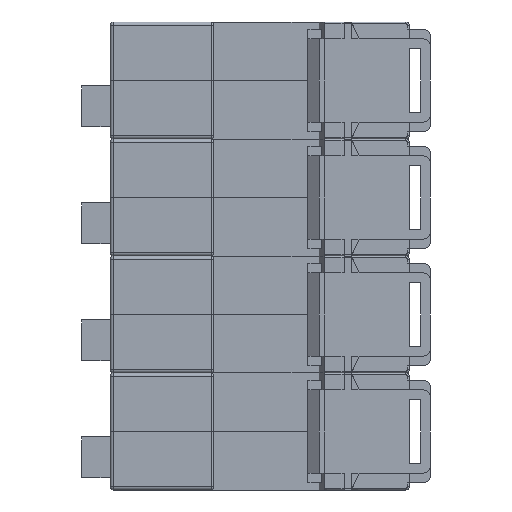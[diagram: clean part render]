
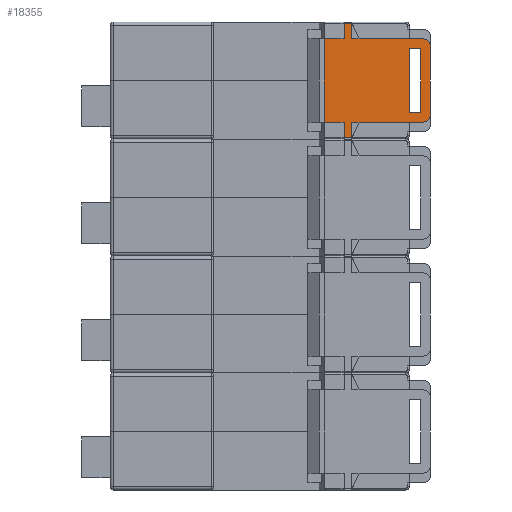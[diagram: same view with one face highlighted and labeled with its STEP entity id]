
A CAD part, front view. The second image highlights one B-rep face of the part: STEP entity #18355.
In plain terms, the highlighted planar face has unit normal (0, -1, 0).
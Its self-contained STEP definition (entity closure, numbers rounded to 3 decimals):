
#153=FACE_BOUND('',#6775,.T.);
#846=LINE('',#27334,#2952);
#850=LINE('',#27343,#2956);
#854=LINE('',#27350,#2960);
#860=LINE('',#27367,#2966);
#1074=LINE('',#27840,#3180);
#1080=LINE('',#27853,#3186);
#1086=LINE('',#27866,#3192);
#1090=LINE('',#27873,#3196);
#1093=LINE('',#27878,#3199);
#1106=LINE('',#27908,#3212);
#1109=LINE('',#27915,#3215);
#1115=LINE('',#27928,#3221);
#1117=LINE('',#27932,#3223);
#1125=LINE('',#27948,#3231);
#1131=LINE('',#27962,#3237);
#1135=LINE('',#27968,#3241);
#1136=LINE('',#27970,#3242);
#1137=LINE('',#27972,#3243);
#1138=LINE('',#27973,#3244);
#1139=LINE('',#27974,#3245);
#2952=VECTOR('',#21838,10.);
#2956=VECTOR('',#21844,10.);
#2960=VECTOR('',#21850,10.);
#2966=VECTOR('',#21866,10.);
#3180=VECTOR('',#22306,10.);
#3186=VECTOR('',#22320,10.);
#3192=VECTOR('',#22334,10.);
#3196=VECTOR('',#22340,10.);
#3199=VECTOR('',#22345,10.);
#3212=VECTOR('',#22374,10.);
#3215=VECTOR('',#22385,10.);
#3221=VECTOR('',#22397,10.);
#3223=VECTOR('',#22401,10.);
#3231=VECTOR('',#22417,10.);
#3237=VECTOR('',#22427,10.);
#3241=VECTOR('',#22435,10.);
#3242=VECTOR('',#22438,10.);
#3243=VECTOR('',#22439,10.);
#3244=VECTOR('',#22440,10.);
#3245=VECTOR('',#22441,10.);
#4895=PLANE('',#19753);
#5732=FACE_OUTER_BOUND('',#6774,.T.);
#6774=EDGE_LOOP('',(#13931,#13932,#13933,#13934,#13935,#13936,#13937,#13938,
#13939,#13940,#13941,#13942,#13943,#13944,#13945,#13946,#13947,#13948));
#6775=EDGE_LOOP('',(#13949,#13950,#13951,#13952));
#7755=CIRCLE('',#19721,2.);
#7756=CIRCLE('',#19724,2.);
#8445=VERTEX_POINT('',#27332);
#8446=VERTEX_POINT('',#27333);
#8449=VERTEX_POINT('',#27341);
#8450=VERTEX_POINT('',#27342);
#8452=VERTEX_POINT('',#27349);
#8457=VERTEX_POINT('',#27365);
#8458=VERTEX_POINT('',#27366);
#8603=VERTEX_POINT('',#27837);
#8604=VERTEX_POINT('',#27839);
#8606=VERTEX_POINT('',#27848);
#8607=VERTEX_POINT('',#27852);
#8610=VERTEX_POINT('',#27865);
#8612=VERTEX_POINT('',#27871);
#8613=VERTEX_POINT('',#27876);
#8621=VERTEX_POINT('',#27905);
#8622=VERTEX_POINT('',#27907);
#8626=VERTEX_POINT('',#27927);
#8627=VERTEX_POINT('',#27931);
#8631=VERTEX_POINT('',#27945);
#8636=VERTEX_POINT('',#27960);
#8637=VERTEX_POINT('',#27961);
#8638=VERTEX_POINT('',#27971);
#10320=EDGE_CURVE('',#8445,#8446,#846,.T.);
#10324=EDGE_CURVE('',#8449,#8450,#850,.T.);
#10328=EDGE_CURVE('',#8449,#8452,#854,.T.);
#10336=EDGE_CURVE('',#8457,#8458,#860,.T.);
#10576=EDGE_CURVE('',#8603,#8604,#1074,.T.);
#10581=EDGE_CURVE('',#8606,#8445,#7755,.T.);
#10583=EDGE_CURVE('',#8607,#8606,#1080,.T.);
#10585=EDGE_CURVE('',#8458,#8607,#7756,.T.);
#10590=EDGE_CURVE('',#8610,#8452,#1086,.T.);
#10594=EDGE_CURVE('',#8612,#8457,#1090,.T.);
#10597=EDGE_CURVE('',#8613,#8603,#1093,.T.);
#10611=EDGE_CURVE('',#8621,#8622,#1106,.T.);
#10615=EDGE_CURVE('',#8604,#8621,#1109,.T.);
#10621=EDGE_CURVE('',#8626,#8612,#1115,.T.);
#10623=EDGE_CURVE('',#8627,#8626,#1117,.T.);
#10632=EDGE_CURVE('',#8446,#8631,#1125,.T.);
#10638=EDGE_CURVE('',#8636,#8637,#1131,.T.);
#10642=EDGE_CURVE('',#8631,#8636,#1135,.T.);
#10643=EDGE_CURVE('',#8622,#8627,#1136,.T.);
#10644=EDGE_CURVE('',#8613,#8638,#1137,.T.);
#10645=EDGE_CURVE('',#8637,#8638,#1138,.T.);
#10646=EDGE_CURVE('',#8450,#8610,#1139,.T.);
#13931=ORIENTED_EDGE('',*,*,#10581,.F.);
#13932=ORIENTED_EDGE('',*,*,#10583,.F.);
#13933=ORIENTED_EDGE('',*,*,#10585,.F.);
#13934=ORIENTED_EDGE('',*,*,#10336,.F.);
#13935=ORIENTED_EDGE('',*,*,#10594,.F.);
#13936=ORIENTED_EDGE('',*,*,#10621,.F.);
#13937=ORIENTED_EDGE('',*,*,#10623,.F.);
#13938=ORIENTED_EDGE('',*,*,#10643,.F.);
#13939=ORIENTED_EDGE('',*,*,#10611,.F.);
#13940=ORIENTED_EDGE('',*,*,#10615,.F.);
#13941=ORIENTED_EDGE('',*,*,#10576,.F.);
#13942=ORIENTED_EDGE('',*,*,#10597,.F.);
#13943=ORIENTED_EDGE('',*,*,#10644,.T.);
#13944=ORIENTED_EDGE('',*,*,#10645,.F.);
#13945=ORIENTED_EDGE('',*,*,#10638,.F.);
#13946=ORIENTED_EDGE('',*,*,#10642,.F.);
#13947=ORIENTED_EDGE('',*,*,#10632,.F.);
#13948=ORIENTED_EDGE('',*,*,#10320,.F.);
#13949=ORIENTED_EDGE('',*,*,#10324,.T.);
#13950=ORIENTED_EDGE('',*,*,#10646,.T.);
#13951=ORIENTED_EDGE('',*,*,#10590,.T.);
#13952=ORIENTED_EDGE('',*,*,#10328,.F.);
#18355=ADVANCED_FACE('',(#5732,#153),#4895,.T.);
#19721=AXIS2_PLACEMENT_3D('',#27849,#22315,#22316);
#19724=AXIS2_PLACEMENT_3D('',#27856,#22324,#22325);
#19753=AXIS2_PLACEMENT_3D('',#27969,#22436,#22437);
#21838=DIRECTION('',(-1.,0.,0.));
#21844=DIRECTION('',(-1.,0.,0.));
#21850=DIRECTION('',(0.,0.,1.));
#21866=DIRECTION('',(1.,0.,0.));
#22306=DIRECTION('',(0.,0.,1.));
#22315=DIRECTION('center_axis',(0.,1.,0.));
#22316=DIRECTION('ref_axis',(0.707,0.,-0.707));
#22320=DIRECTION('',(0.,0.,-1.));
#22324=DIRECTION('center_axis',(0.,1.,0.));
#22325=DIRECTION('ref_axis',(0.707,0.,0.707));
#22334=DIRECTION('',(1.,0.,0.));
#22340=DIRECTION('',(1.,0.,0.));
#22345=DIRECTION('',(-1.,0.,0.));
#22374=DIRECTION('',(0.,0.,1.));
#22385=DIRECTION('',(1.,0.,0.));
#22397=DIRECTION('',(1.,0.,0.));
#22401=DIRECTION('',(0.,0.,-1.));
#22417=DIRECTION('',(-1.,0.,0.));
#22427=DIRECTION('',(0.,0.,-1.));
#22435=DIRECTION('',(-1.,0.,0.));
#22436=DIRECTION('center_axis',(0.,-1.,0.));
#22437=DIRECTION('ref_axis',(0.,0.,-1.));
#22438=DIRECTION('',(1.,0.,0.));
#22439=DIRECTION('',(0.,0.,-1.));
#22440=DIRECTION('',(-1.,0.,0.));
#22441=DIRECTION('',(0.,0.,1.));
#27332=CARTESIAN_POINT('',(94.3,0.05,5.1));
#27333=CARTESIAN_POINT('',(90.,0.05,5.1));
#27334=CARTESIAN_POINT('',(88.116,0.05,5.1));
#27341=CARTESIAN_POINT('',(93.4,0.05,8.1));
#27342=CARTESIAN_POINT('',(89.95,0.05,8.1));
#27343=CARTESIAN_POINT('',(84.966,0.05,8.1));
#27349=CARTESIAN_POINT('',(93.4,0.05,27.1));
#27350=CARTESIAN_POINT('',(93.4,0.05,12.85));
#27365=CARTESIAN_POINT('',(90.,0.05,30.1));
#27366=CARTESIAN_POINT('',(94.3,0.05,30.1));
#27367=CARTESIAN_POINT('',(88.116,0.05,30.1));
#27837=CARTESIAN_POINT('',(64.5,0.05,5.1));
#27839=CARTESIAN_POINT('',(64.5,0.05,30.1));
#27840=CARTESIAN_POINT('',(64.5,0.05,33.05));
#27848=CARTESIAN_POINT('',(96.3,0.05,7.1));
#27849=CARTESIAN_POINT('Origin',(94.3,0.05,7.1));
#27852=CARTESIAN_POINT('',(96.3,0.05,28.1));
#27853=CARTESIAN_POINT('',(96.3,0.05,17.6));
#27856=CARTESIAN_POINT('Origin',(94.3,0.05,28.1));
#27865=CARTESIAN_POINT('',(89.95,0.05,27.1));
#27866=CARTESIAN_POINT('',(84.966,0.05,27.1));
#27871=CARTESIAN_POINT('',(74.9,0.05,30.1));
#27873=CARTESIAN_POINT('',(90.,0.05,30.1));
#27876=CARTESIAN_POINT('',(70.4,0.05,5.1));
#27878=CARTESIAN_POINT('',(90.,0.05,5.1));
#27905=CARTESIAN_POINT('',(70.4,0.05,30.1));
#27907=CARTESIAN_POINT('',(70.4,0.05,34.7));
#27908=CARTESIAN_POINT('',(70.4,0.05,34.7));
#27915=CARTESIAN_POINT('',(90.,0.05,30.1));
#27927=CARTESIAN_POINT('',(72.6,0.05,30.1));
#27928=CARTESIAN_POINT('',(90.,0.05,30.1));
#27931=CARTESIAN_POINT('',(72.6,0.05,34.7));
#27932=CARTESIAN_POINT('',(72.6,0.05,31.25));
#27945=CARTESIAN_POINT('',(74.9,0.05,5.1));
#27948=CARTESIAN_POINT('',(90.,0.05,5.1));
#27960=CARTESIAN_POINT('',(72.6,0.05,5.1));
#27961=CARTESIAN_POINT('',(72.6,0.05,0.5));
#27962=CARTESIAN_POINT('',(72.6,0.05,3.95));
#27968=CARTESIAN_POINT('',(90.,0.05,5.1));
#27969=CARTESIAN_POINT('Origin',(79.931,0.05,17.6));
#27970=CARTESIAN_POINT('',(71.5,0.05,34.7));
#27971=CARTESIAN_POINT('',(70.4,0.05,0.5));
#27972=CARTESIAN_POINT('',(70.4,0.05,0.5));
#27973=CARTESIAN_POINT('',(71.5,0.05,0.5));
#27974=CARTESIAN_POINT('',(89.95,0.05,17.6));
